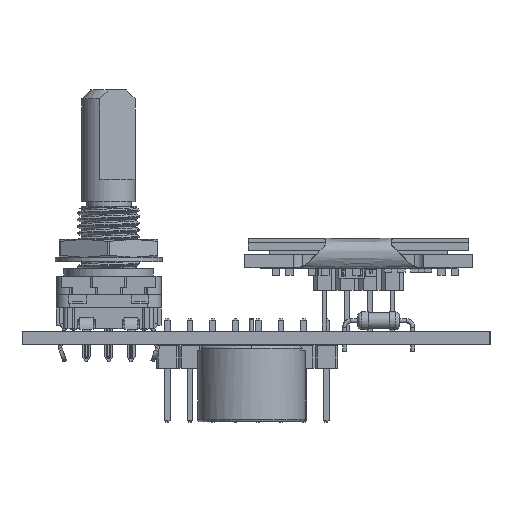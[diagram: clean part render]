
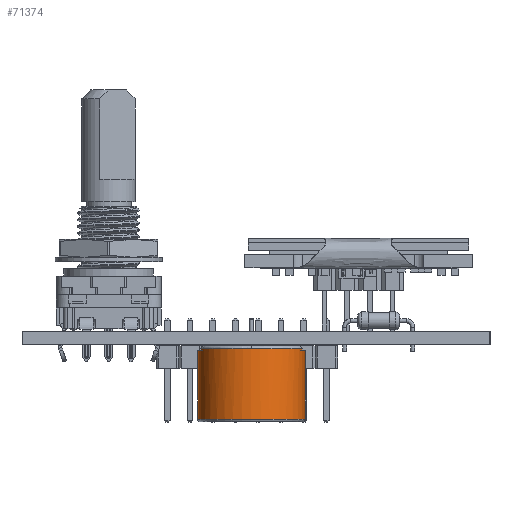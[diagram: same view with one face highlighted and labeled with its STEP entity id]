
A CAD part, front view. The second image highlights one B-rep face of the part: STEP entity #71374.
In plain terms, the highlighted cylindrical face has radius 6 mm (diameter 12 mm), a full revolution.
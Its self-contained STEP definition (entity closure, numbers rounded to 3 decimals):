
#71374 = ADVANCED_FACE('',(#71375),#71470,.T.);
#71375 = FACE_BOUND('',#71376,.T.);
#71376 = EDGE_LOOP('',(#71377,#71387,#71396,#71404,#71413,#71421,#71430,
    #71438,#71447,#71455,#71462,#71463));
#71377 = ORIENTED_EDGE('',*,*,#71378,.F.);
#71378 = EDGE_CURVE('',#71379,#71381,#71383,.T.);
#71379 = VERTEX_POINT('',#71380);
#71380 = CARTESIAN_POINT('',(5.25,5.657,0.53));
#71381 = VERTEX_POINT('',#71382);
#71382 = CARTESIAN_POINT('',(5.25,5.657,0.33));
#71383 = LINE('',#71384,#71385);
#71384 = CARTESIAN_POINT('',(5.25,5.657,0.03));
#71385 = VECTOR('',#71386,1.);
#71386 = DIRECTION('',(-0.,-0.,-1.));
#71387 = ORIENTED_EDGE('',*,*,#71388,.F.);
#71388 = EDGE_CURVE('',#71389,#71379,#71391,.T.);
#71389 = VERTEX_POINT('',#71390);
#71390 = CARTESIAN_POINT('',(1.25,5.657,0.53));
#71391 = CIRCLE('',#71392,6.);
#71392 = AXIS2_PLACEMENT_3D('',#71393,#71394,#71395);
#71393 = CARTESIAN_POINT('',(3.25,0.,0.53));
#71394 = DIRECTION('',(0.,0.,-1.));
#71395 = DIRECTION('',(1.,0.,0.));
#71396 = ORIENTED_EDGE('',*,*,#71397,.T.);
#71397 = EDGE_CURVE('',#71389,#71398,#71400,.T.);
#71398 = VERTEX_POINT('',#71399);
#71399 = CARTESIAN_POINT('',(1.25,5.657,0.33));
#71400 = LINE('',#71401,#71402);
#71401 = CARTESIAN_POINT('',(1.25,5.657,0.03));
#71402 = VECTOR('',#71403,1.);
#71403 = DIRECTION('',(-0.,-0.,-1.));
#71404 = ORIENTED_EDGE('',*,*,#71405,.T.);
#71405 = EDGE_CURVE('',#71398,#71406,#71408,.T.);
#71406 = VERTEX_POINT('',#71407);
#71407 = CARTESIAN_POINT('',(1.25,-5.657,0.33));
#71408 = CIRCLE('',#71409,6.);
#71409 = AXIS2_PLACEMENT_3D('',#71410,#71411,#71412);
#71410 = CARTESIAN_POINT('',(3.25,0.,0.33));
#71411 = DIRECTION('',(0.,0.,1.));
#71412 = DIRECTION('',(1.,0.,0.));
#71413 = ORIENTED_EDGE('',*,*,#71414,.F.);
#71414 = EDGE_CURVE('',#71415,#71406,#71417,.T.);
#71415 = VERTEX_POINT('',#71416);
#71416 = CARTESIAN_POINT('',(1.25,-5.657,0.53));
#71417 = LINE('',#71418,#71419);
#71418 = CARTESIAN_POINT('',(1.25,-5.657,0.03));
#71419 = VECTOR('',#71420,1.);
#71420 = DIRECTION('',(-0.,-0.,-1.));
#71421 = ORIENTED_EDGE('',*,*,#71422,.F.);
#71422 = EDGE_CURVE('',#71423,#71415,#71425,.T.);
#71423 = VERTEX_POINT('',#71424);
#71424 = CARTESIAN_POINT('',(5.25,-5.657,0.53));
#71425 = CIRCLE('',#71426,6.);
#71426 = AXIS2_PLACEMENT_3D('',#71427,#71428,#71429);
#71427 = CARTESIAN_POINT('',(3.25,0.,0.53));
#71428 = DIRECTION('',(0.,0.,-1.));
#71429 = DIRECTION('',(1.,0.,0.));
#71430 = ORIENTED_EDGE('',*,*,#71431,.T.);
#71431 = EDGE_CURVE('',#71423,#71432,#71434,.T.);
#71432 = VERTEX_POINT('',#71433);
#71433 = CARTESIAN_POINT('',(5.25,-5.657,0.33));
#71434 = LINE('',#71435,#71436);
#71435 = CARTESIAN_POINT('',(5.25,-5.657,0.03));
#71436 = VECTOR('',#71437,1.);
#71437 = DIRECTION('',(-0.,-0.,-1.));
#71438 = ORIENTED_EDGE('',*,*,#71439,.T.);
#71439 = EDGE_CURVE('',#71432,#71440,#71442,.T.);
#71440 = VERTEX_POINT('',#71441);
#71441 = CARTESIAN_POINT('',(9.25,0.,0.33));
#71442 = CIRCLE('',#71443,6.);
#71443 = AXIS2_PLACEMENT_3D('',#71444,#71445,#71446);
#71444 = CARTESIAN_POINT('',(3.25,0.,0.33));
#71445 = DIRECTION('',(0.,0.,1.));
#71446 = DIRECTION('',(1.,0.,0.));
#71447 = ORIENTED_EDGE('',*,*,#71448,.T.);
#71448 = EDGE_CURVE('',#71440,#71449,#71451,.T.);
#71449 = VERTEX_POINT('',#71450);
#71450 = CARTESIAN_POINT('',(9.25,0.,8.23));
#71451 = LINE('',#71452,#71453);
#71452 = CARTESIAN_POINT('',(9.25,0.,0.03));
#71453 = VECTOR('',#71454,1.);
#71454 = DIRECTION('',(0.,0.,1.));
#71455 = ORIENTED_EDGE('',*,*,#71456,.F.);
#71456 = EDGE_CURVE('',#71449,#71449,#71457,.T.);
#71457 = CIRCLE('',#71458,6.);
#71458 = AXIS2_PLACEMENT_3D('',#71459,#71460,#71461);
#71459 = CARTESIAN_POINT('',(3.25,0.,8.23));
#71460 = DIRECTION('',(0.,0.,1.));
#71461 = DIRECTION('',(1.,0.,0.));
#71462 = ORIENTED_EDGE('',*,*,#71448,.F.);
#71463 = ORIENTED_EDGE('',*,*,#71464,.T.);
#71464 = EDGE_CURVE('',#71440,#71381,#71465,.T.);
#71465 = CIRCLE('',#71466,6.);
#71466 = AXIS2_PLACEMENT_3D('',#71467,#71468,#71469);
#71467 = CARTESIAN_POINT('',(3.25,0.,0.33));
#71468 = DIRECTION('',(0.,0.,1.));
#71469 = DIRECTION('',(1.,0.,0.));
#71470 = CYLINDRICAL_SURFACE('',#71471,6.);
#71471 = AXIS2_PLACEMENT_3D('',#71472,#71473,#71474);
#71472 = CARTESIAN_POINT('',(3.25,0.,0.03));
#71473 = DIRECTION('',(-0.,-0.,-1.));
#71474 = DIRECTION('',(1.,0.,0.));
